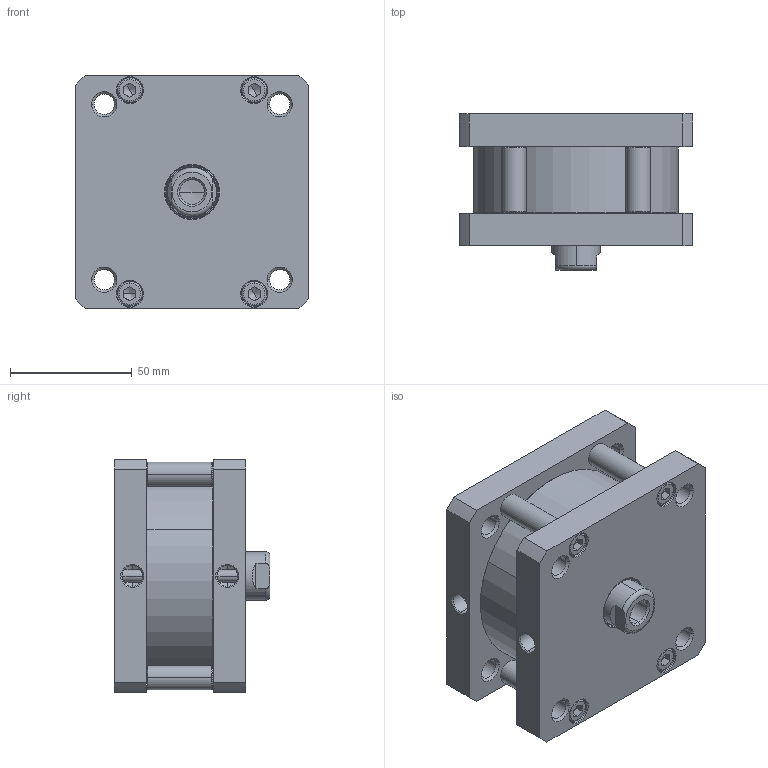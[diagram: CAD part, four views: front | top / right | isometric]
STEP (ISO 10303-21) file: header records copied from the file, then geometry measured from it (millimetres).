
FILE_DESCRIPTION(('STEP AP203'),'1');
FILE_NAME('84M80G000 - course 0mm.stp','2022-05-30T09:10:47',(' '),(' '),'Spatial InterOp 3D',' ',' ');
FILE_SCHEMA(('CONFIG_CONTROL_DESIGN'));
Length unit declared in the file: metre
Products named in the file (6): 84M80G000 - course 0mm; CORPO-000; STELO-000; TA; TIRANTE-000; TP
Assembly tree (8 placements, depth 2):
  84M80G000 - course 0mm
    CORPO-000
    STELO-000
    TA
    TIRANTE-000  x4
    TP
Bounding box: 96 x 64 x 96 mm (x, y, z)
Volume: 260211.7 mm3; surface area: 78392.4 mm2
Topology: 8 solids, 17 shells, 389 faces, 921 edges, 564 vertices
Faces by surface type: cone 146, cylinder 116, plane 103, torus 24
Entity records: 11562 total; most frequent: CARTESIAN_POINT 2767, DIRECTION 1890, ORIENTED_EDGE 1678, EDGE_CURVE 839, AXIS2_PLACEMENT_3D 763, VERTEX_POINT 528, EDGE_LOOP 423, CIRCLE 393
